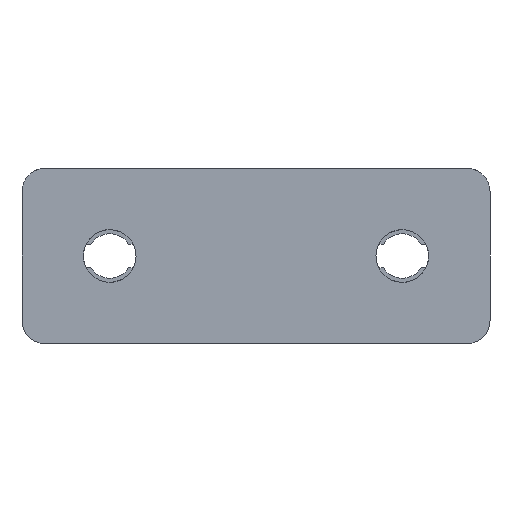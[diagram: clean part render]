
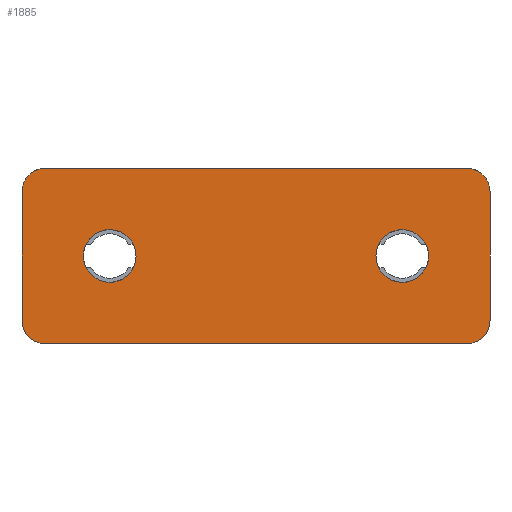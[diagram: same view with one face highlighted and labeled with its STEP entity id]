
A CAD part, front view. The second image highlights one B-rep face of the part: STEP entity #1885.
In plain terms, the highlighted planar face has unit normal (0, -1, 0).
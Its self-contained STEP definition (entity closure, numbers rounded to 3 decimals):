
#1493=CARTESIAN_POINT('Vertex',(-10.525,0.,1.079)) ;
#1496=CARTESIAN_POINT('Axis2P3D Location',(-12.5,0.,0.)) ;
#1500=CARTESIAN_POINT('Vertex',(-14.475,0.,-1.079)) ;
#1524=CARTESIAN_POINT('Axis2P3D Location',(-12.5,0.,0.)) ;
#1549=CARTESIAN_POINT('Vertex',(10.525,0.,-1.079)) ;
#1552=CARTESIAN_POINT('Axis2P3D Location',(12.5,0.,0.)) ;
#1556=CARTESIAN_POINT('Vertex',(14.475,0.,1.079)) ;
#1580=CARTESIAN_POINT('Axis2P3D Location',(12.5,0.,0.)) ;
#1619=CARTESIAN_POINT('Vertex',(18.,0.,7.5)) ;
#1622=CARTESIAN_POINT('Axis2P3D Location',(18.,0.,5.5)) ;
#1626=CARTESIAN_POINT('Vertex',(20.,0.,5.5)) ;
#1652=CARTESIAN_POINT('Vertex',(-18.,0.,7.5)) ;
#1655=CARTESIAN_POINT('Line Origine',(0.,0.,7.5)) ;
#1687=CARTESIAN_POINT('Vertex',(-20.,0.,5.5)) ;
#1690=CARTESIAN_POINT('Axis2P3D Location',(-18.,0.,5.5)) ;
#1718=CARTESIAN_POINT('Vertex',(-20.,0.,-5.5)) ;
#1721=CARTESIAN_POINT('Line Origine',(-20.,0.,0.)) ;
#1750=CARTESIAN_POINT('Vertex',(-18.,0.,-7.5)) ;
#1753=CARTESIAN_POINT('Axis2P3D Location',(-18.,0.,-5.5)) ;
#1783=CARTESIAN_POINT('Vertex',(18.,0.,-7.5)) ;
#1786=CARTESIAN_POINT('Line Origine',(0.,0.,-7.5)) ;
#1826=CARTESIAN_POINT('Vertex',(20.,0.,-5.5)) ;
#1829=CARTESIAN_POINT('Axis2P3D Location',(18.,0.,-5.5)) ;
#1848=CARTESIAN_POINT('Line Origine',(20.,0.,0.)) ;
#1862=CARTESIAN_POINT('Axis2P3D Location',(20.,0.,0.)) ;
#1497=DIRECTION('Axis2P3D Direction',(0.,-1.,0.)) ;
#1525=DIRECTION('Axis2P3D Direction',(0.,-1.,0.)) ;
#1553=DIRECTION('Axis2P3D Direction',(0.,-1.,0.)) ;
#1581=DIRECTION('Axis2P3D Direction',(0.,-1.,0.)) ;
#1623=DIRECTION('Axis2P3D Direction',(0.,1.,-0.)) ;
#1656=DIRECTION('Vector Direction',(1.,0.,0.)) ;
#1691=DIRECTION('Axis2P3D Direction',(0.,1.,0.)) ;
#1722=DIRECTION('Vector Direction',(0.,0.,1.)) ;
#1754=DIRECTION('Axis2P3D Direction',(0.,1.,0.)) ;
#1787=DIRECTION('Vector Direction',(1.,0.,0.)) ;
#1830=DIRECTION('Axis2P3D Direction',(-0.,1.,0.)) ;
#1849=DIRECTION('Vector Direction',(0.,0.,1.)) ;
#1863=DIRECTION('Axis2P3D Direction',(0.,1.,-0.)) ;
#1864=DIRECTION('Axis2P3D XDirection',(-1.,0.,0.)) ;
#1498=AXIS2_PLACEMENT_3D('Circle Axis2P3D',#1496,#1497,$) ;
#1526=AXIS2_PLACEMENT_3D('Circle Axis2P3D',#1524,#1525,$) ;
#1554=AXIS2_PLACEMENT_3D('Circle Axis2P3D',#1552,#1553,$) ;
#1582=AXIS2_PLACEMENT_3D('Circle Axis2P3D',#1580,#1581,$) ;
#1624=AXIS2_PLACEMENT_3D('Circle Axis2P3D',#1622,#1623,$) ;
#1692=AXIS2_PLACEMENT_3D('Circle Axis2P3D',#1690,#1691,$) ;
#1755=AXIS2_PLACEMENT_3D('Circle Axis2P3D',#1753,#1754,$) ;
#1831=AXIS2_PLACEMENT_3D('Circle Axis2P3D',#1829,#1830,$) ;
#1865=AXIS2_PLACEMENT_3D('Plane Axis2P3D',#1862,#1863,#1864) ;
#1868=ORIENTED_EDGE('',*,*,#1628,.T.) ;
#1869=ORIENTED_EDGE('',*,*,#1659,.T.) ;
#1870=ORIENTED_EDGE('',*,*,#1694,.T.) ;
#1871=ORIENTED_EDGE('',*,*,#1725,.T.) ;
#1872=ORIENTED_EDGE('',*,*,#1757,.T.) ;
#1873=ORIENTED_EDGE('',*,*,#1790,.T.) ;
#1874=ORIENTED_EDGE('',*,*,#1833,.T.) ;
#1875=ORIENTED_EDGE('',*,*,#1852,.T.) ;
#1878=ORIENTED_EDGE('',*,*,#1502,.F.) ;
#1879=ORIENTED_EDGE('',*,*,#1528,.F.) ;
#1882=ORIENTED_EDGE('',*,*,#1558,.F.) ;
#1883=ORIENTED_EDGE('',*,*,#1584,.F.) ;
#1880=FACE_BOUND('',#1877,.T.) ;
#1884=FACE_BOUND('',#1881,.T.) ;
#1657=VECTOR('Line Direction',#1656,1.) ;
#1723=VECTOR('Line Direction',#1722,1.) ;
#1788=VECTOR('Line Direction',#1787,1.) ;
#1850=VECTOR('Line Direction',#1849,1.) ;
#1885=ADVANCED_FACE('Brep With Voids',(#1876,#1880,#1884),#1866,.F.) ;
#1499=CIRCLE('generated circle',#1498,2.25) ;
#1527=CIRCLE('generated circle',#1526,2.25) ;
#1555=CIRCLE('generated circle',#1554,2.25) ;
#1583=CIRCLE('generated circle',#1582,2.25) ;
#1625=CIRCLE('generated circle',#1624,2.) ;
#1693=CIRCLE('generated circle',#1692,2.) ;
#1756=CIRCLE('generated circle',#1755,2.) ;
#1832=CIRCLE('generated circle',#1831,2.) ;
#1502=EDGE_CURVE('',#1494,#1501,#1499,.T.) ;
#1528=EDGE_CURVE('',#1501,#1494,#1527,.T.) ;
#1558=EDGE_CURVE('',#1550,#1557,#1555,.T.) ;
#1584=EDGE_CURVE('',#1557,#1550,#1583,.T.) ;
#1628=EDGE_CURVE('',#1627,#1620,#1625,.F.) ;
#1659=EDGE_CURVE('',#1620,#1653,#1658,.F.) ;
#1694=EDGE_CURVE('',#1653,#1688,#1693,.F.) ;
#1725=EDGE_CURVE('',#1688,#1719,#1724,.F.) ;
#1757=EDGE_CURVE('',#1719,#1751,#1756,.F.) ;
#1790=EDGE_CURVE('',#1751,#1784,#1789,.T.) ;
#1833=EDGE_CURVE('',#1784,#1827,#1832,.F.) ;
#1852=EDGE_CURVE('',#1827,#1627,#1851,.T.) ;
#1867=EDGE_LOOP('',(#1868,#1869,#1870,#1871,#1872,#1873,#1874,#1875)) ;
#1877=EDGE_LOOP('',(#1878,#1879)) ;
#1881=EDGE_LOOP('',(#1882,#1883)) ;
#1876=FACE_OUTER_BOUND('',#1867,.T.) ;
#1658=LINE('Line',#1655,#1657) ;
#1724=LINE('Line',#1721,#1723) ;
#1789=LINE('Line',#1786,#1788) ;
#1851=LINE('Line',#1848,#1850) ;
#1866=PLANE('',#1865) ;
#1494=VERTEX_POINT('',#1493) ;
#1501=VERTEX_POINT('',#1500) ;
#1550=VERTEX_POINT('',#1549) ;
#1557=VERTEX_POINT('',#1556) ;
#1620=VERTEX_POINT('',#1619) ;
#1627=VERTEX_POINT('',#1626) ;
#1653=VERTEX_POINT('',#1652) ;
#1688=VERTEX_POINT('',#1687) ;
#1719=VERTEX_POINT('',#1718) ;
#1751=VERTEX_POINT('',#1750) ;
#1784=VERTEX_POINT('',#1783) ;
#1827=VERTEX_POINT('',#1826) ;
